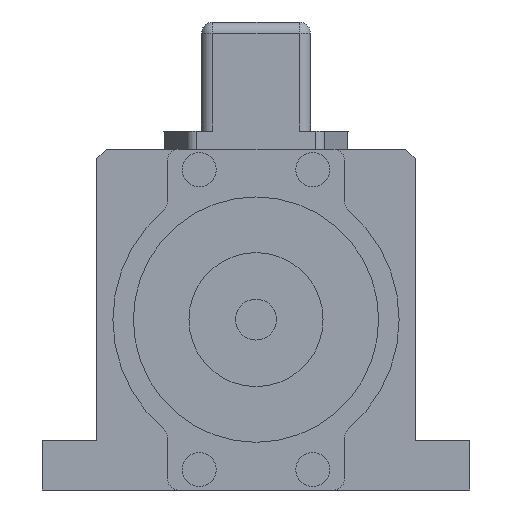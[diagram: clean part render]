
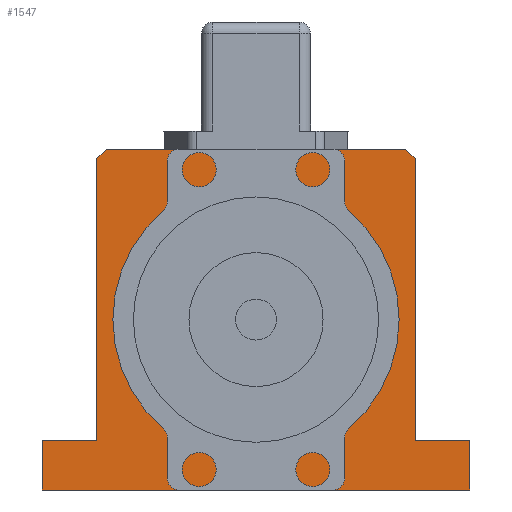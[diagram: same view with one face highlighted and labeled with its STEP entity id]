
A CAD part, front view. The second image highlights one B-rep face of the part: STEP entity #1547.
In plain terms, the highlighted planar face has unit normal (0, -1, 0).
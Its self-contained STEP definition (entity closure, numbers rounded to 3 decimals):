
#88=PLANE('',#1692);
#158=FACE_OUTER_BOUND('',#274,.T.);
#274=EDGE_LOOP('',(#1191,#1192,#1193,#1194,#1195,#1196,#1197,#1198,#1199,
#1200));
#379=LINE('',#2448,#500);
#381=LINE('',#2452,#502);
#384=LINE('',#2458,#505);
#385=LINE('',#2460,#506);
#386=LINE('',#2462,#507);
#387=LINE('',#2464,#508);
#388=LINE('',#2466,#509);
#389=LINE('',#2468,#510);
#390=LINE('',#2470,#511);
#391=LINE('',#2471,#512);
#500=VECTOR('',#1989,10.);
#502=VECTOR('',#1993,10.);
#505=VECTOR('',#1998,10.);
#506=VECTOR('',#1999,10.);
#507=VECTOR('',#2000,10.);
#508=VECTOR('',#2001,10.);
#509=VECTOR('',#2002,10.);
#510=VECTOR('',#2003,10.);
#511=VECTOR('',#2004,10.);
#512=VECTOR('',#2005,10.);
#744=VERTEX_POINT('',#2445);
#745=VERTEX_POINT('',#2447);
#746=VERTEX_POINT('',#2451);
#748=VERTEX_POINT('',#2457);
#749=VERTEX_POINT('',#2459);
#750=VERTEX_POINT('',#2461);
#751=VERTEX_POINT('',#2463);
#752=VERTEX_POINT('',#2465);
#753=VERTEX_POINT('',#2467);
#754=VERTEX_POINT('',#2469);
#911=EDGE_CURVE('',#744,#745,#379,.T.);
#913=EDGE_CURVE('',#746,#745,#381,.T.);
#916=EDGE_CURVE('',#744,#748,#384,.T.);
#917=EDGE_CURVE('',#749,#748,#385,.T.);
#918=EDGE_CURVE('',#749,#750,#386,.T.);
#919=EDGE_CURVE('',#751,#750,#387,.T.);
#920=EDGE_CURVE('',#752,#751,#388,.T.);
#921=EDGE_CURVE('',#753,#752,#389,.T.);
#922=EDGE_CURVE('',#754,#753,#390,.T.);
#923=EDGE_CURVE('',#746,#754,#391,.T.);
#1191=ORIENTED_EDGE('',*,*,#911,.F.);
#1192=ORIENTED_EDGE('',*,*,#916,.T.);
#1193=ORIENTED_EDGE('',*,*,#917,.F.);
#1194=ORIENTED_EDGE('',*,*,#918,.T.);
#1195=ORIENTED_EDGE('',*,*,#919,.F.);
#1196=ORIENTED_EDGE('',*,*,#920,.F.);
#1197=ORIENTED_EDGE('',*,*,#921,.F.);
#1198=ORIENTED_EDGE('',*,*,#922,.F.);
#1199=ORIENTED_EDGE('',*,*,#923,.F.);
#1200=ORIENTED_EDGE('',*,*,#913,.T.);
#1547=ADVANCED_FACE('',(#158),#88,.F.);
#1692=AXIS2_PLACEMENT_3D('',#2456,#1996,#1997);
#1989=DIRECTION('',(0.707,0.,-0.707));
#1993=DIRECTION('',(0.,0.,1.));
#1996=DIRECTION('center_axis',(0.,1.,0.));
#1997=DIRECTION('ref_axis',(-1.,0.,0.));
#1998=DIRECTION('',(-1.,0.,0.));
#1999=DIRECTION('',(0.707,0.,0.707));
#2000=DIRECTION('',(0.,0.,-1.));
#2001=DIRECTION('',(1.,0.,0.));
#2002=DIRECTION('',(0.,0.,1.));
#2003=DIRECTION('',(-1.,0.,0.));
#2004=DIRECTION('',(0.,0.,-1.));
#2005=DIRECTION('',(1.,0.,0.));
#2445=CARTESIAN_POINT('',(33.,54.,37.5));
#2447=CARTESIAN_POINT('',(35.,54.,35.5));
#2448=CARTESIAN_POINT('',(34.625,54.,35.875));
#2451=CARTESIAN_POINT('',(35.,54.,-26.5));
#2452=CARTESIAN_POINT('',(35.,54.,-37.5));
#2456=CARTESIAN_POINT('Origin',(0.,54.,0.));
#2457=CARTESIAN_POINT('',(-33.,54.,37.5));
#2458=CARTESIAN_POINT('',(35.,54.,37.5));
#2459=CARTESIAN_POINT('',(-35.,54.,35.5));
#2460=CARTESIAN_POINT('',(-34.625,54.,35.875));
#2461=CARTESIAN_POINT('',(-35.,54.,-26.5));
#2462=CARTESIAN_POINT('',(-35.,54.,37.5));
#2463=CARTESIAN_POINT('',(-47.,54.,-26.5));
#2464=CARTESIAN_POINT('',(-47.,54.,-26.5));
#2465=CARTESIAN_POINT('',(-47.,54.,-37.5));
#2466=CARTESIAN_POINT('',(-47.,54.,-37.5));
#2467=CARTESIAN_POINT('',(47.,54.,-37.5));
#2468=CARTESIAN_POINT('',(47.,54.,-37.5));
#2469=CARTESIAN_POINT('',(47.,54.,-26.5));
#2470=CARTESIAN_POINT('',(47.,54.,-26.5));
#2471=CARTESIAN_POINT('',(-47.,54.,-26.5));
